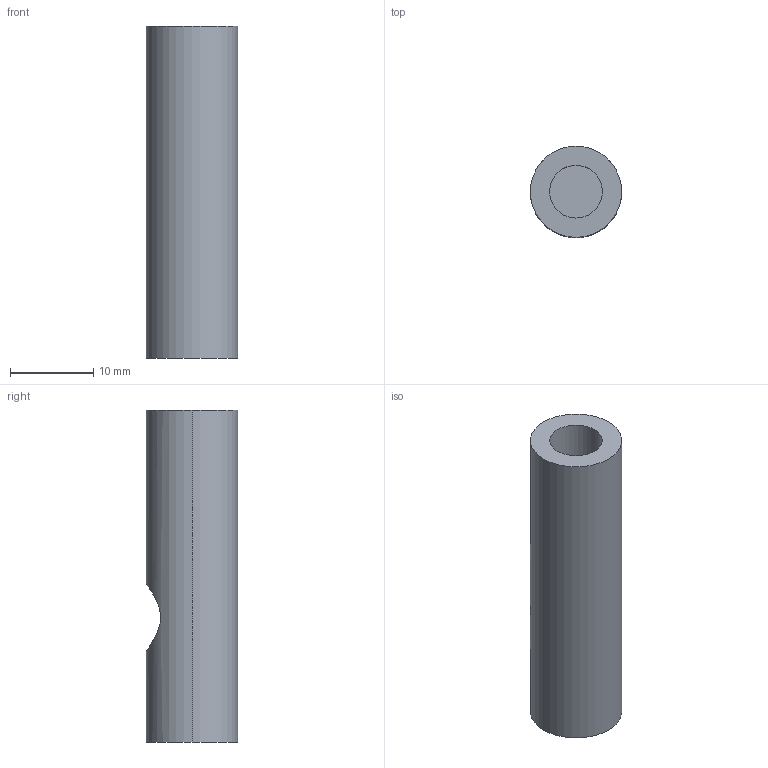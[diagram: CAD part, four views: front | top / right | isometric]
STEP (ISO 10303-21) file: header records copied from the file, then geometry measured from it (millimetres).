
FILE_DESCRIPTION (( 'STEP AP214' ), '1' );
FILE_NAME ('Center Bolt.STEP', '2023-07-31T21:16:18', ( '' ), ( '' ), 'SwSTEP 2.0', 'SolidWorks 2021', '' );
FILE_SCHEMA (( 'AUTOMOTIVE_DESIGN' ));
Length unit declared in the file: millimetre
Products named in the file (1): Center Bolt
Bounding box: 11 x 11 x 40 mm (x, y, z)
Volume: 3267.6 mm3; surface area: 1859.7 mm2
Topology: 1 solids, 1 shells, 13 faces, 24 edges, 16 vertices
Faces by surface type: cylinder 8, plane 5
Entity records: 438 total; most frequent: CARTESIAN_POINT 130, DIRECTION 64, ORIENTED_EDGE 48, AXIS2_PLACEMENT_3D 28, EDGE_CURVE 24, VERTEX_POINT 16, EDGE_LOOP 16, CIRCLE 14
